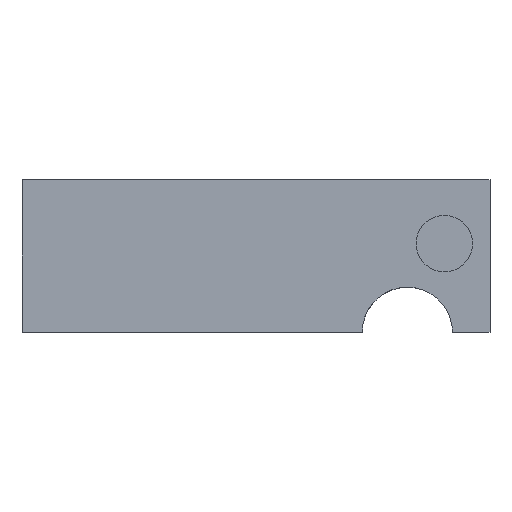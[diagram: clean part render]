
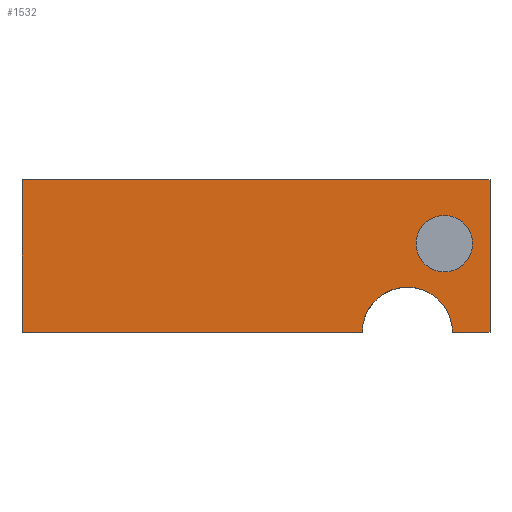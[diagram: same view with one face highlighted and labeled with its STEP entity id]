
A CAD part, front view. The second image highlights one B-rep face of the part: STEP entity #1532.
In plain terms, the highlighted planar face has unit normal (0, -1, 0).
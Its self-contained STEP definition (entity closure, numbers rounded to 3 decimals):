
#22 = VERTEX_POINT('',#23);
#23 = CARTESIAN_POINT('',(0.,0.,12.201));
#32 = PLANE('',#33);
#33 = AXIS2_PLACEMENT_3D('',#34,#35,#36);
#34 = CARTESIAN_POINT('',(0.,0.,0.));
#35 = DIRECTION('',(1.,0.,-0.));
#36 = DIRECTION('',(0.,0.,1.));
#44 = PLANE('',#45);
#45 = AXIS2_PLACEMENT_3D('',#46,#47,#48);
#46 = CARTESIAN_POINT('',(0.,0.,12.201));
#47 = DIRECTION('',(0.,0.,1.));
#48 = DIRECTION('',(1.,0.,-0.));
#56 = EDGE_CURVE('',#57,#22,#59,.T.);
#57 = VERTEX_POINT('',#58);
#58 = CARTESIAN_POINT('',(0.,0.,0.));
#59 = SURFACE_CURVE('',#60,(#64,#71),.PCURVE_S1.);
#60 = LINE('',#61,#62);
#61 = CARTESIAN_POINT('',(0.,0.,0.));
#62 = VECTOR('',#63,1.);
#63 = DIRECTION('',(0.,0.,1.));
#64 = PCURVE('',#32,#65);
#65 = DEFINITIONAL_REPRESENTATION('',(#66),#70);
#66 = LINE('',#67,#68);
#67 = CARTESIAN_POINT('',(0.,0.));
#68 = VECTOR('',#69,1.);
#69 = DIRECTION('',(1.,0.));
#70 = ( GEOMETRIC_REPRESENTATION_CONTEXT(2) 
PARAMETRIC_REPRESENTATION_CONTEXT() REPRESENTATION_CONTEXT('2D SPACE',''
  ) );
#71 = PCURVE('',#72,#77);
#72 = PLANE('',#73);
#73 = AXIS2_PLACEMENT_3D('',#74,#75,#76);
#74 = CARTESIAN_POINT('',(0.,0.,0.));
#75 = DIRECTION('',(-0.,1.,0.));
#76 = DIRECTION('',(0.,0.,1.));
#77 = DEFINITIONAL_REPRESENTATION('',(#78),#82);
#78 = LINE('',#79,#80);
#79 = CARTESIAN_POINT('',(0.,0.));
#80 = VECTOR('',#81,1.);
#81 = DIRECTION('',(1.,0.));
#82 = ( GEOMETRIC_REPRESENTATION_CONTEXT(2) 
PARAMETRIC_REPRESENTATION_CONTEXT() REPRESENTATION_CONTEXT('2D SPACE',''
  ) );
#100 = PLANE('',#101);
#101 = AXIS2_PLACEMENT_3D('',#102,#103,#104);
#102 = CARTESIAN_POINT('',(0.,0.,0.));
#103 = DIRECTION('',(0.,0.,1.));
#104 = DIRECTION('',(1.,0.,-0.));
#198 = EDGE_CURVE('',#22,#199,#201,.T.);
#199 = VERTEX_POINT('',#200);
#200 = CARTESIAN_POINT('',(37.367,0.,12.201));
#201 = SURFACE_CURVE('',#202,(#206,#213),.PCURVE_S1.);
#202 = LINE('',#203,#204);
#203 = CARTESIAN_POINT('',(0.,0.,12.201));
#204 = VECTOR('',#205,1.);
#205 = DIRECTION('',(1.,0.,-0.));
#206 = PCURVE('',#44,#207);
#207 = DEFINITIONAL_REPRESENTATION('',(#208),#212);
#208 = LINE('',#209,#210);
#209 = CARTESIAN_POINT('',(0.,0.));
#210 = VECTOR('',#211,1.);
#211 = DIRECTION('',(1.,0.));
#212 = ( GEOMETRIC_REPRESENTATION_CONTEXT(2) 
PARAMETRIC_REPRESENTATION_CONTEXT() REPRESENTATION_CONTEXT('2D SPACE',''
  ) );
#213 = PCURVE('',#72,#214);
#214 = DEFINITIONAL_REPRESENTATION('',(#215),#219);
#215 = LINE('',#216,#217);
#216 = CARTESIAN_POINT('',(12.201,0.));
#217 = VECTOR('',#218,1.);
#218 = DIRECTION('',(0.,1.));
#219 = ( GEOMETRIC_REPRESENTATION_CONTEXT(2) 
PARAMETRIC_REPRESENTATION_CONTEXT() REPRESENTATION_CONTEXT('2D SPACE',''
  ) );
#237 = PLANE('',#238);
#238 = AXIS2_PLACEMENT_3D('',#239,#240,#241);
#239 = CARTESIAN_POINT('',(37.367,0.,0.));
#240 = DIRECTION('',(1.,0.,-0.));
#241 = DIRECTION('',(0.,0.,1.));
#1154 = CYLINDRICAL_SURFACE('',#1155,3.609);
#1155 = AXIS2_PLACEMENT_3D('',#1156,#1157,#1158);
#1156 = CARTESIAN_POINT('',(30.769,49.869,0.));
#1157 = DIRECTION('',(0.,1.,-0.));
#1158 = DIRECTION('',(0.,0.,1.));
#1193 = PLANE('',#1194);
#1194 = AXIS2_PLACEMENT_3D('',#1195,#1196,#1197);
#1195 = CARTESIAN_POINT('',(0.,0.,0.));
#1196 = DIRECTION('',(0.,0.,1.));
#1197 = DIRECTION('',(1.,0.,-0.));
#1333 = EDGE_CURVE('',#57,#1334,#1336,.T.);
#1334 = VERTEX_POINT('',#1335);
#1335 = CARTESIAN_POINT('',(27.16,0.,0.));
#1336 = SURFACE_CURVE('',#1337,(#1341,#1348),.PCURVE_S1.);
#1337 = LINE('',#1338,#1339);
#1338 = CARTESIAN_POINT('',(0.,0.,0.));
#1339 = VECTOR('',#1340,1.);
#1340 = DIRECTION('',(1.,0.,-0.));
#1341 = PCURVE('',#100,#1342);
#1342 = DEFINITIONAL_REPRESENTATION('',(#1343),#1347);
#1343 = LINE('',#1344,#1345);
#1344 = CARTESIAN_POINT('',(0.,0.));
#1345 = VECTOR('',#1346,1.);
#1346 = DIRECTION('',(1.,0.));
#1347 = ( GEOMETRIC_REPRESENTATION_CONTEXT(2) 
PARAMETRIC_REPRESENTATION_CONTEXT() REPRESENTATION_CONTEXT('2D SPACE',''
  ) );
#1348 = PCURVE('',#72,#1349);
#1349 = DEFINITIONAL_REPRESENTATION('',(#1350),#1354);
#1350 = LINE('',#1351,#1352);
#1351 = CARTESIAN_POINT('',(0.,0.));
#1352 = VECTOR('',#1353,1.);
#1353 = DIRECTION('',(0.,1.));
#1354 = ( GEOMETRIC_REPRESENTATION_CONTEXT(2) 
PARAMETRIC_REPRESENTATION_CONTEXT() REPRESENTATION_CONTEXT('2D SPACE',''
  ) );
#1532 = ADVANCED_FACE('f006',(#1533,#1606),#72,.F.);
#1533 = FACE_BOUND('',#1534,.F.);
#1534 = EDGE_LOOP('',(#1535,#1536,#1537,#1538,#1561,#1584));
#1535 = ORIENTED_EDGE('',*,*,#1333,.F.);
#1536 = ORIENTED_EDGE('',*,*,#56,.T.);
#1537 = ORIENTED_EDGE('',*,*,#198,.T.);
#1538 = ORIENTED_EDGE('',*,*,#1539,.F.);
#1539 = EDGE_CURVE('',#1540,#199,#1542,.T.);
#1540 = VERTEX_POINT('',#1541);
#1541 = CARTESIAN_POINT('',(37.367,0.,0.));
#1542 = SURFACE_CURVE('',#1543,(#1547,#1554),.PCURVE_S1.);
#1543 = LINE('',#1544,#1545);
#1544 = CARTESIAN_POINT('',(37.367,0.,0.));
#1545 = VECTOR('',#1546,1.);
#1546 = DIRECTION('',(0.,0.,1.));
#1547 = PCURVE('',#72,#1548);
#1548 = DEFINITIONAL_REPRESENTATION('',(#1549),#1553);
#1549 = LINE('',#1550,#1551);
#1550 = CARTESIAN_POINT('',(0.,37.367));
#1551 = VECTOR('',#1552,1.);
#1552 = DIRECTION('',(1.,0.));
#1553 = ( GEOMETRIC_REPRESENTATION_CONTEXT(2) 
PARAMETRIC_REPRESENTATION_CONTEXT() REPRESENTATION_CONTEXT('2D SPACE',''
  ) );
#1554 = PCURVE('',#237,#1555);
#1555 = DEFINITIONAL_REPRESENTATION('',(#1556),#1560);
#1556 = LINE('',#1557,#1558);
#1557 = CARTESIAN_POINT('',(0.,0.));
#1558 = VECTOR('',#1559,1.);
#1559 = DIRECTION('',(1.,0.));
#1560 = ( GEOMETRIC_REPRESENTATION_CONTEXT(2) 
PARAMETRIC_REPRESENTATION_CONTEXT() REPRESENTATION_CONTEXT('2D SPACE',''
  ) );
#1561 = ORIENTED_EDGE('',*,*,#1562,.F.);
#1562 = EDGE_CURVE('',#1563,#1540,#1565,.T.);
#1563 = VERTEX_POINT('',#1564);
#1564 = CARTESIAN_POINT('',(34.378,0.,0.));
#1565 = SURFACE_CURVE('',#1566,(#1570,#1577),.PCURVE_S1.);
#1566 = LINE('',#1567,#1568);
#1567 = CARTESIAN_POINT('',(0.,0.,0.));
#1568 = VECTOR('',#1569,1.);
#1569 = DIRECTION('',(1.,0.,-0.));
#1570 = PCURVE('',#72,#1571);
#1571 = DEFINITIONAL_REPRESENTATION('',(#1572),#1576);
#1572 = LINE('',#1573,#1574);
#1573 = CARTESIAN_POINT('',(0.,0.));
#1574 = VECTOR('',#1575,1.);
#1575 = DIRECTION('',(0.,1.));
#1576 = ( GEOMETRIC_REPRESENTATION_CONTEXT(2) 
PARAMETRIC_REPRESENTATION_CONTEXT() REPRESENTATION_CONTEXT('2D SPACE',''
  ) );
#1577 = PCURVE('',#1193,#1578);
#1578 = DEFINITIONAL_REPRESENTATION('',(#1579),#1583);
#1579 = LINE('',#1580,#1581);
#1580 = CARTESIAN_POINT('',(0.,0.));
#1581 = VECTOR('',#1582,1.);
#1582 = DIRECTION('',(1.,0.));
#1583 = ( GEOMETRIC_REPRESENTATION_CONTEXT(2) 
PARAMETRIC_REPRESENTATION_CONTEXT() REPRESENTATION_CONTEXT('2D SPACE',''
  ) );
#1584 = ORIENTED_EDGE('',*,*,#1585,.F.);
#1585 = EDGE_CURVE('',#1334,#1563,#1586,.T.);
#1586 = SURFACE_CURVE('',#1587,(#1592,#1599),.PCURVE_S1.);
#1587 = CIRCLE('',#1588,3.609);
#1588 = AXIS2_PLACEMENT_3D('',#1589,#1590,#1591);
#1589 = CARTESIAN_POINT('',(30.769,0.,0.));
#1590 = DIRECTION('',(0.,1.,-0.));
#1591 = DIRECTION('',(0.,0.,1.));
#1592 = PCURVE('',#72,#1593);
#1593 = DEFINITIONAL_REPRESENTATION('',(#1594),#1598);
#1594 = CIRCLE('',#1595,3.609);
#1595 = AXIS2_PLACEMENT_2D('',#1596,#1597);
#1596 = CARTESIAN_POINT('',(0.,30.769));
#1597 = DIRECTION('',(1.,0.));
#1598 = ( GEOMETRIC_REPRESENTATION_CONTEXT(2) 
PARAMETRIC_REPRESENTATION_CONTEXT() REPRESENTATION_CONTEXT('2D SPACE',''
  ) );
#1599 = PCURVE('',#1154,#1600);
#1600 = DEFINITIONAL_REPRESENTATION('',(#1601),#1605);
#1601 = LINE('',#1602,#1603);
#1602 = CARTESIAN_POINT('',(0.,-49.869));
#1603 = VECTOR('',#1604,1.);
#1604 = DIRECTION('',(1.,0.));
#1605 = ( GEOMETRIC_REPRESENTATION_CONTEXT(2) 
PARAMETRIC_REPRESENTATION_CONTEXT() REPRESENTATION_CONTEXT('2D SPACE',''
  ) );
#1606 = FACE_BOUND('',#1607,.F.);
#1607 = EDGE_LOOP('',(#1608));
#1608 = ORIENTED_EDGE('',*,*,#1609,.T.);
#1609 = EDGE_CURVE('',#1610,#1610,#1612,.T.);
#1610 = VERTEX_POINT('',#1611);
#1611 = CARTESIAN_POINT('',(33.718,0.,4.833));
#1612 = SURFACE_CURVE('',#1613,(#1618,#1629),.PCURVE_S1.);
#1613 = CIRCLE('',#1614,2.256);
#1614 = AXIS2_PLACEMENT_3D('',#1615,#1616,#1617);
#1615 = CARTESIAN_POINT('',(33.718,0.,7.089));
#1616 = DIRECTION('',(0.,-1.,0.));
#1617 = DIRECTION('',(0.,-0.,-1.));
#1618 = PCURVE('',#72,#1619);
#1619 = DEFINITIONAL_REPRESENTATION('',(#1620),#1628);
#1620 = ( BOUNDED_CURVE() B_SPLINE_CURVE(2,(#1621,#1622,#1623,#1624,
#1625,#1626,#1627),.UNSPECIFIED.,.T.,.F.) B_SPLINE_CURVE_WITH_KNOTS((1,2
    ,2,2,2,1),(-2.094,0.,2.094,4.189,
6.283,8.378),.UNSPECIFIED.) CURVE() 
GEOMETRIC_REPRESENTATION_ITEM() RATIONAL_B_SPLINE_CURVE((1.,0.5,1.,0.5,
1.,0.5,1.)) REPRESENTATION_ITEM('') );
#1621 = CARTESIAN_POINT('',(4.833,33.718));
#1622 = CARTESIAN_POINT('',(4.833,37.626));
#1623 = CARTESIAN_POINT('',(8.217,35.672));
#1624 = CARTESIAN_POINT('',(11.602,33.718));
#1625 = CARTESIAN_POINT('',(8.217,31.764));
#1626 = CARTESIAN_POINT('',(4.833,29.81));
#1627 = CARTESIAN_POINT('',(4.833,33.718));
#1628 = ( GEOMETRIC_REPRESENTATION_CONTEXT(2) 
PARAMETRIC_REPRESENTATION_CONTEXT() REPRESENTATION_CONTEXT('2D SPACE',''
  ) );
#1629 = PCURVE('',#1630,#1635);
#1630 = CYLINDRICAL_SURFACE('',#1631,2.256);
#1631 = AXIS2_PLACEMENT_3D('',#1632,#1633,#1634);
#1632 = CARTESIAN_POINT('',(33.718,0.,7.089));
#1633 = DIRECTION('',(0.,-1.,0.));
#1634 = DIRECTION('',(0.,-0.,-1.));
#1635 = DEFINITIONAL_REPRESENTATION('',(#1636),#1640);
#1636 = LINE('',#1637,#1638);
#1637 = CARTESIAN_POINT('',(0.,0.));
#1638 = VECTOR('',#1639,1.);
#1639 = DIRECTION('',(1.,0.));
#1640 = ( GEOMETRIC_REPRESENTATION_CONTEXT(2) 
PARAMETRIC_REPRESENTATION_CONTEXT() REPRESENTATION_CONTEXT('2D SPACE',''
  ) );
